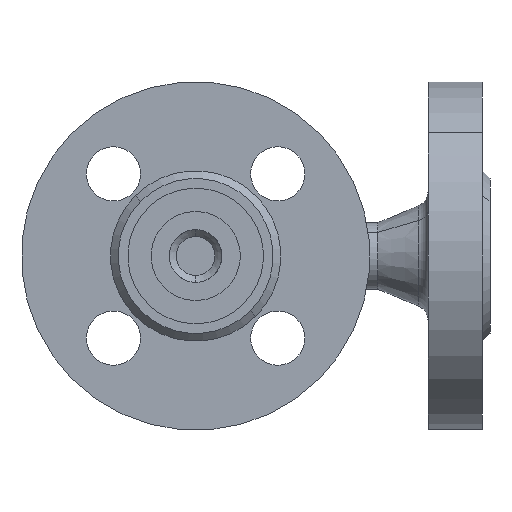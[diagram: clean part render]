
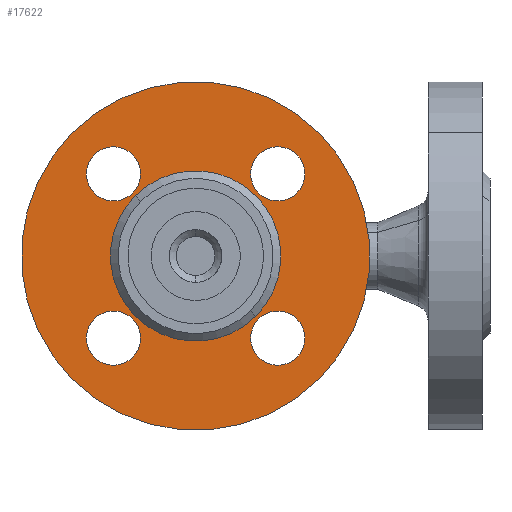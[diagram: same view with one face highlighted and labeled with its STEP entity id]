
A CAD part, front view. The second image highlights one B-rep face of the part: STEP entity #17622.
In plain terms, the highlighted planar face has unit normal (0, -1, 0).
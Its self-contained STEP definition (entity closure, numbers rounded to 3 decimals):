
#16521 = ORIENTED_EDGE ( 'NONE', *, *, #16142, .T. ) ;
#17351 = EDGE_LOOP ( 'NONE', ( #16521, #15613 ) ) ;
#17387 = EDGE_LOOP ( 'NONE', ( #15844, #17799 ) ) ;
#17622 = ADVANCED_FACE ( 'NONE', ( #14994, #14995, #14996, #14997, #14998, #14999 ), #15000, .F. ) ;
#17799 = ORIENTED_EDGE ( 'NONE', *, *, #15764, .T. ) ;
#17930 = CARTESIAN_POINT ( 'NONE',  ( 23., 2., 0. ) ) ;
#18491 = CARTESIAN_POINT ( 'NONE',  ( 37., 2., 0. ) ) ;
#2317 = VERTEX_POINT ( 'NONE', #20375 ) ;
#2421 = CIRCLE ( 'NONE', #2422, 7. ) ;
#2422 = AXIS2_PLACEMENT_3D ( 'NONE', #2423, #2424, #2425 ) ;
#2423 = CARTESIAN_POINT ( 'NONE',  ( -30., 2., 0. ) ) ;
#2424 = DIRECTION ( 'NONE',  ( 0., 1., 0. ) ) ;
#2425 = DIRECTION ( 'NONE',  ( -1., 0., 0. ) ) ;
#19041 = EDGE_CURVE ( 'NONE', #5535, #5758, #16176, .T. ) ;
#20375 = CARTESIAN_POINT ( 'NONE',  ( -7., 2., 30. ) ) ;
#20632 = CIRCLE ( 'NONE', #20633, 7. ) ;
#20633 = AXIS2_PLACEMENT_3D ( 'NONE', #20634, #20635, #20636 ) ;
#20634 = CARTESIAN_POINT ( 'NONE',  ( 30., 2., 0. ) ) ;
#20635 = DIRECTION ( 'NONE',  ( 0., 1., 0. ) ) ;
#20636 = DIRECTION ( 'NONE',  ( -1., 0., 0. ) ) ;
#4883 = ORIENTED_EDGE ( 'NONE', *, *, #5941, .T. ) ;
#5254 = EDGE_CURVE ( 'NONE', #14629, #2317, #10562, .T. ) ;
#5399 = ORIENTED_EDGE ( 'NONE', *, *, #23319, .T. ) ;
#5535 = VERTEX_POINT ( 'NONE', #10723 ) ;
#5758 = VERTEX_POINT ( 'NONE', #11687 ) ;
#5921 = EDGE_LOOP ( 'NONE', ( #5399, #4883 ) ) ;
#5941 = EDGE_CURVE ( 'NONE', #13352, #8584, #11785, .T. ) ;
#5977 = EDGE_CURVE ( 'NONE', #5758, #5535, #11820, .T. ) ;
#6165 = ORIENTED_EDGE ( 'NONE', *, *, #19041, .F. ) ;
#22790 = CIRCLE ( 'NONE', #22791, 22. ) ;
#22791 = AXIS2_PLACEMENT_3D ( 'NONE', #22792, #22793, #22794 ) ;
#22792 = CARTESIAN_POINT ( 'NONE',  ( 0., 2., 0. ) ) ;
#22793 = DIRECTION ( 'NONE',  ( 0., 1., 0. ) ) ;
#22794 = DIRECTION ( 'NONE',  ( -1., 0., 0. ) ) ;
#6687 = ORIENTED_EDGE ( 'NONE', *, *, #5977, .F. ) ;
#6798 = VERTEX_POINT ( 'NONE', #13189 ) ;
#23319 = EDGE_CURVE ( 'NONE', #8584, #13352, #22790, .T. ) ;
#7017 = VERTEX_POINT ( 'NONE', #13473 ) ;
#7203 = EDGE_LOOP ( 'NONE', ( #6687, #6165 ) ) ;
#7449 = ORIENTED_EDGE ( 'NONE', *, *, #10179, .T. ) ;
#7969 = EDGE_CURVE ( 'NONE', #9724, #9955, #15239, .T. ) ;
#8191 = CARTESIAN_POINT ( 'NONE',  ( 22., 2., 0. ) ) ;
#8274 = ORIENTED_EDGE ( 'NONE', *, *, #7969, .T. ) ;
#8584 = VERTEX_POINT ( 'NONE', #16221 ) ;
#9724 = VERTEX_POINT ( 'NONE', #17930 ) ;
#9955 = VERTEX_POINT ( 'NONE', #18491 ) ;
#10179 = EDGE_CURVE ( 'NONE', #9955, #9724, #20632, .T. ) ;
#10183 = CIRCLE ( 'NONE', #10184, 7. ) ;
#10184 = AXIS2_PLACEMENT_3D ( 'NONE', #10185, #10186, #10187 ) ;
#10185 = CARTESIAN_POINT ( 'NONE',  ( 0., 2., 30. ) ) ;
#10186 = DIRECTION ( 'NONE',  ( 0., 1., 0. ) ) ;
#10187 = DIRECTION ( 'NONE',  ( -1., 0., 0. ) ) ;
#10330 = CARTESIAN_POINT ( 'NONE',  ( 7., 2., 30. ) ) ;
#10562 = CIRCLE ( 'NONE', #10563, 7. ) ;
#10563 = AXIS2_PLACEMENT_3D ( 'NONE', #10564, #10565, #10566 ) ;
#10564 = CARTESIAN_POINT ( 'NONE',  ( 0., 2., 30. ) ) ;
#10565 = DIRECTION ( 'NONE',  ( 0., 1., 0. ) ) ;
#10566 = DIRECTION ( 'NONE',  ( -1., 0., 0. ) ) ;
#10723 = CARTESIAN_POINT ( 'NONE',  ( 45., 2., 0. ) ) ;
#11626 = CARTESIAN_POINT ( 'NONE',  ( -7., 2., -30. ) ) ;
#11687 = CARTESIAN_POINT ( 'NONE',  ( -45., 2., 0. ) ) ;
#11748 = CIRCLE ( 'NONE', #11749, 7. ) ;
#11749 = AXIS2_PLACEMENT_3D ( 'NONE', #11752, #11753, #11754 ) ;
#11752 = CARTESIAN_POINT ( 'NONE',  ( 0., 2., -30. ) ) ;
#11753 = DIRECTION ( 'NONE',  ( 0., 1., 0. ) ) ;
#11754 = DIRECTION ( 'NONE',  ( -1., 0., 0. ) ) ;
#11784 = CARTESIAN_POINT ( 'NONE',  ( 7., 2., -30. ) ) ;
#11785 = CIRCLE ( 'NONE', #11791, 22. ) ;
#11791 = AXIS2_PLACEMENT_3D ( 'NONE', #11792, #11793, #11794 ) ;
#11792 = CARTESIAN_POINT ( 'NONE',  ( 0., 2., 0. ) ) ;
#11793 = DIRECTION ( 'NONE',  ( 0., 1., 0. ) ) ;
#11794 = DIRECTION ( 'NONE',  ( -1., 0., 0. ) ) ;
#11820 = CIRCLE ( 'NONE', #11821, 45. ) ;
#11821 = AXIS2_PLACEMENT_3D ( 'NONE', #11822, #11823, #11824 ) ;
#11822 = CARTESIAN_POINT ( 'NONE',  ( 0., 2., 0. ) ) ;
#11823 = DIRECTION ( 'NONE',  ( 0., 1., 0. ) ) ;
#11824 = DIRECTION ( 'NONE',  ( -1., 0., 0. ) ) ;
#11958 = EDGE_CURVE ( 'NONE', #7017, #6798, #2421, .T. ) ;
#11970 = CIRCLE ( 'NONE', #11971, 7. ) ;
#11971 = AXIS2_PLACEMENT_3D ( 'NONE', #11972, #11973, #11974 ) ;
#11972 = CARTESIAN_POINT ( 'NONE',  ( 0., 2., -30. ) ) ;
#11973 = DIRECTION ( 'NONE',  ( 0., 1., 0. ) ) ;
#11974 = DIRECTION ( 'NONE',  ( -1., 0., 0. ) ) ;
#12561 = CIRCLE ( 'NONE', #12562, 7. ) ;
#12562 = AXIS2_PLACEMENT_3D ( 'NONE', #12563, #12564, #12565 ) ;
#12563 = CARTESIAN_POINT ( 'NONE',  ( -30., 2., 0. ) ) ;
#12564 = DIRECTION ( 'NONE',  ( 0., 1., 0. ) ) ;
#12565 = DIRECTION ( 'NONE',  ( -1., 0., 0. ) ) ;
#13189 = CARTESIAN_POINT ( 'NONE',  ( -37., 2., 0. ) ) ;
#13352 = VERTEX_POINT ( 'NONE', #8191 ) ;
#13473 = CARTESIAN_POINT ( 'NONE',  ( -23., 2., 0. ) ) ;
#13689 = EDGE_LOOP ( 'NONE', ( #8274, #7449 ) ) ;
#13933 = ORIENTED_EDGE ( 'NONE', *, *, #5254, .T. ) ;
#14456 = EDGE_CURVE ( 'NONE', #2317, #14629, #10183, .T. ) ;
#14629 = VERTEX_POINT ( 'NONE', #10330 ) ;
#14835 = ORIENTED_EDGE ( 'NONE', *, *, #14456, .T. ) ;
#14994 = FACE_BOUND ( 'NONE', #17387, .T. ) ;
#14995 = FACE_BOUND ( 'NONE', #17351, .T. ) ;
#14996 = FACE_BOUND ( 'NONE', #15368, .T. ) ;
#14997 = FACE_BOUND ( 'NONE', #13689, .T. ) ;
#14998 = FACE_OUTER_BOUND ( 'NONE', #7203, .T. ) ;
#14999 = FACE_BOUND ( 'NONE', #5921, .T. ) ;
#15000 = PLANE ( 'NONE',  #15001 ) ;
#15001 = AXIS2_PLACEMENT_3D ( 'NONE', #15008, #15009, #15010 ) ;
#15008 = CARTESIAN_POINT ( 'NONE',  ( 22., 2., 0. ) ) ;
#15009 = DIRECTION ( 'NONE',  ( 0., 1., 0. ) ) ;
#15010 = DIRECTION ( 'NONE',  ( -1., 0., 0. ) ) ;
#15239 = CIRCLE ( 'NONE', #15240, 7. ) ;
#15240 = AXIS2_PLACEMENT_3D ( 'NONE', #15241, #15242, #15243 ) ;
#15241 = CARTESIAN_POINT ( 'NONE',  ( 30., 2., 0. ) ) ;
#15242 = DIRECTION ( 'NONE',  ( 0., 1., 0. ) ) ;
#15243 = DIRECTION ( 'NONE',  ( -1., 0., 0. ) ) ;
#15309 = VERTEX_POINT ( 'NONE', #11626 ) ;
#15368 = EDGE_LOOP ( 'NONE', ( #14835, #13933 ) ) ;
#15463 = EDGE_CURVE ( 'NONE', #15309, #15537, #11748, .T. ) ;
#15537 = VERTEX_POINT ( 'NONE', #11784 ) ;
#15613 = ORIENTED_EDGE ( 'NONE', *, *, #11958, .T. ) ;
#15764 = EDGE_CURVE ( 'NONE', #15537, #15309, #11970, .T. ) ;
#15844 = ORIENTED_EDGE ( 'NONE', *, *, #15463, .T. ) ;
#16142 = EDGE_CURVE ( 'NONE', #6798, #7017, #12561, .T. ) ;
#16176 = CIRCLE ( 'NONE', #16177, 45. ) ;
#16177 = AXIS2_PLACEMENT_3D ( 'NONE', #16178, #16179, #16182 ) ;
#16178 = CARTESIAN_POINT ( 'NONE',  ( 0., 2., 0. ) ) ;
#16179 = DIRECTION ( 'NONE',  ( 0., 1., 0. ) ) ;
#16182 = DIRECTION ( 'NONE',  ( -1., 0., 0. ) ) ;
#16221 = CARTESIAN_POINT ( 'NONE',  ( -22., 2., 0. ) ) ;
